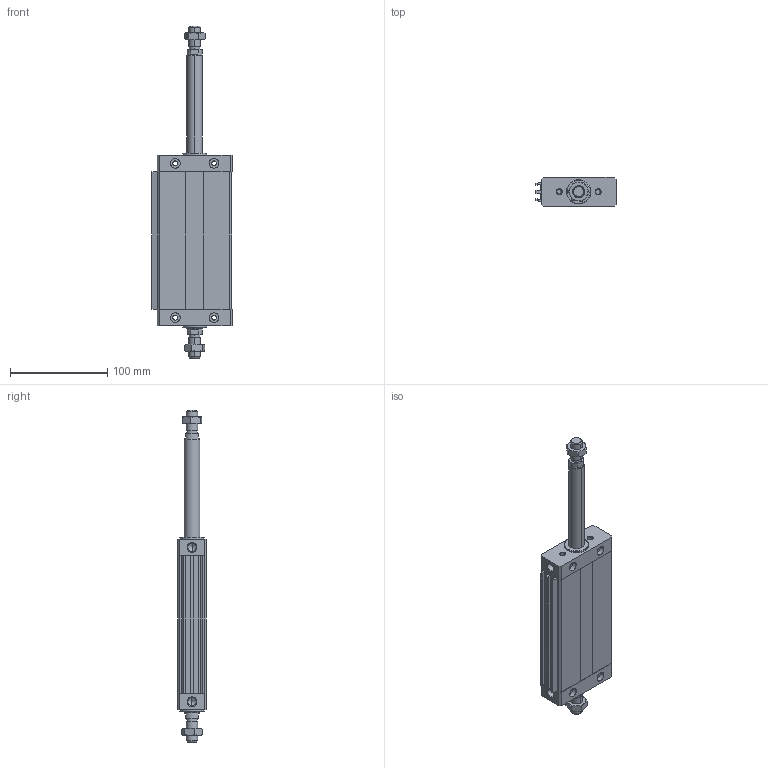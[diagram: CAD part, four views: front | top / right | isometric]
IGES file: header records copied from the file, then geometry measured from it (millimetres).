
Global section: file name: No Iges File Name specified; native system: Autodesk Inventor 2011; preprocessor: AutoDesk Inventor Iges Exporter R2011; author: airolcr1; date: 20101213.153149; units: millimetre
Bounding box: 82.5 x 30 x 342 mm (x, y, z)
Volume: 312584.4 mm3; surface area: 107242.1 mm2
Topology: 6 solids, 6 shells, 276 faces, 652 edges, 396 vertices
Faces by surface type: bspline 110, plane 98, cone 36, cylinder 18, revolution 14
